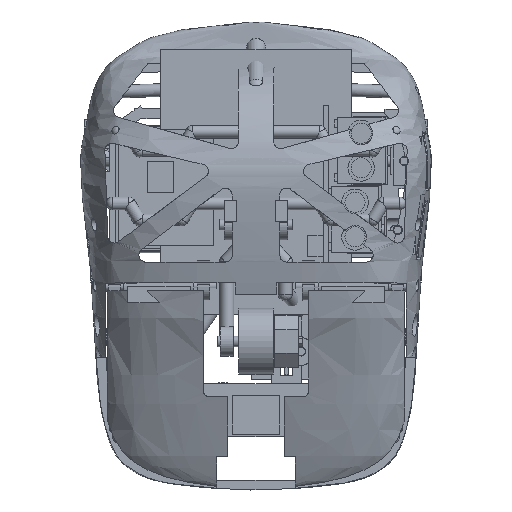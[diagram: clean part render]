
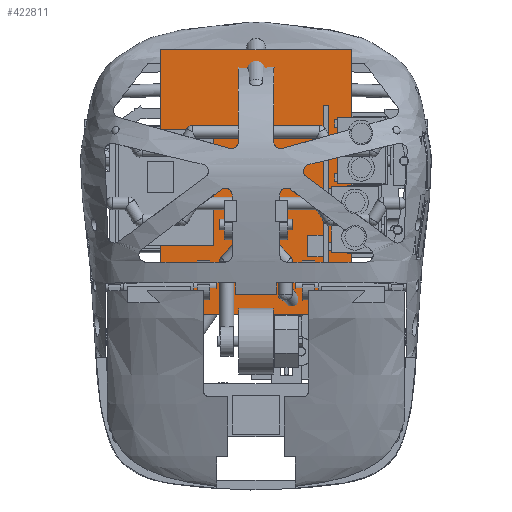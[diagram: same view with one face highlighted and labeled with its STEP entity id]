
A CAD part, top view. The second image highlights one B-rep face of the part: STEP entity #422811.
In plain terms, the highlighted planar face has unit normal (0, 0, 1).
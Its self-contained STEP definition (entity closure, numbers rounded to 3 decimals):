
#422497 = VERTEX_POINT('',#422498);
#422498 = CARTESIAN_POINT('',(-18.,33.,15.2));
#422505 = PLANE('',#422506);
#422506 = AXIS2_PLACEMENT_3D('',#422507,#422508,#422509);
#422507 = CARTESIAN_POINT('',(-18.,33.,14.));
#422508 = DIRECTION('',(1.,0.,0.));
#422509 = DIRECTION('',(0.,0.,1.));
#422517 = PLANE('',#422518);
#422518 = AXIS2_PLACEMENT_3D('',#422519,#422520,#422521);
#422519 = CARTESIAN_POINT('',(-18.,33.,14.));
#422520 = DIRECTION('',(0.,1.,0.));
#422521 = DIRECTION('',(0.,-0.,1.));
#422558 = VERTEX_POINT('',#422559);
#422559 = CARTESIAN_POINT('',(-18.,83.,15.2));
#422573 = PLANE('',#422574);
#422574 = AXIS2_PLACEMENT_3D('',#422575,#422576,#422577);
#422575 = CARTESIAN_POINT('',(-18.,83.,14.));
#422576 = DIRECTION('',(0.,1.,0.));
#422577 = DIRECTION('',(0.,-0.,1.));
#422585 = EDGE_CURVE('',#422497,#422558,#422586,.T.);
#422586 = SURFACE_CURVE('',#422587,(#422591,#422598),.PCURVE_S1.);
#422587 = LINE('',#422588,#422589);
#422588 = CARTESIAN_POINT('',(-18.,33.,15.2));
#422589 = VECTOR('',#422590,1.);
#422590 = DIRECTION('',(0.,1.,0.));
#422591 = PCURVE('',#422505,#422592);
#422592 = DEFINITIONAL_REPRESENTATION('',(#422593),#422597);
#422593 = LINE('',#422594,#422595);
#422594 = CARTESIAN_POINT('',(1.2,0.));
#422595 = VECTOR('',#422596,1.);
#422596 = DIRECTION('',(0.,-1.));
#422597 = ( GEOMETRIC_REPRESENTATION_CONTEXT(2) 
PARAMETRIC_REPRESENTATION_CONTEXT() REPRESENTATION_CONTEXT('2D SPACE',''
  ) );
#422598 = PCURVE('',#422599,#422604);
#422599 = PLANE('',#422600);
#422600 = AXIS2_PLACEMENT_3D('',#422601,#422602,#422603);
#422601 = CARTESIAN_POINT('',(-18.,33.,15.2));
#422602 = DIRECTION('',(0.,0.,1.));
#422603 = DIRECTION('',(1.,0.,-0.));
#422604 = DEFINITIONAL_REPRESENTATION('',(#422605),#422609);
#422605 = LINE('',#422606,#422607);
#422606 = CARTESIAN_POINT('',(0.,0.));
#422607 = VECTOR('',#422608,1.);
#422608 = DIRECTION('',(0.,1.));
#422609 = ( GEOMETRIC_REPRESENTATION_CONTEXT(2) 
PARAMETRIC_REPRESENTATION_CONTEXT() REPRESENTATION_CONTEXT('2D SPACE',''
  ) );
#422617 = VERTEX_POINT('',#422618);
#422618 = CARTESIAN_POINT('',(18.,33.,15.2));
#422625 = PLANE('',#422626);
#422626 = AXIS2_PLACEMENT_3D('',#422627,#422628,#422629);
#422627 = CARTESIAN_POINT('',(18.,33.,14.));
#422628 = DIRECTION('',(1.,0.,0.));
#422629 = DIRECTION('',(0.,0.,1.));
#422668 = VERTEX_POINT('',#422669);
#422669 = CARTESIAN_POINT('',(18.,83.,15.2));
#422690 = EDGE_CURVE('',#422617,#422668,#422691,.T.);
#422691 = SURFACE_CURVE('',#422692,(#422696,#422703),.PCURVE_S1.);
#422692 = LINE('',#422693,#422694);
#422693 = CARTESIAN_POINT('',(18.,33.,15.2));
#422694 = VECTOR('',#422695,1.);
#422695 = DIRECTION('',(0.,1.,0.));
#422696 = PCURVE('',#422625,#422697);
#422697 = DEFINITIONAL_REPRESENTATION('',(#422698),#422702);
#422698 = LINE('',#422699,#422700);
#422699 = CARTESIAN_POINT('',(1.2,0.));
#422700 = VECTOR('',#422701,1.);
#422701 = DIRECTION('',(0.,-1.));
#422702 = ( GEOMETRIC_REPRESENTATION_CONTEXT(2) 
PARAMETRIC_REPRESENTATION_CONTEXT() REPRESENTATION_CONTEXT('2D SPACE',''
  ) );
#422703 = PCURVE('',#422599,#422704);
#422704 = DEFINITIONAL_REPRESENTATION('',(#422705),#422709);
#422705 = LINE('',#422706,#422707);
#422706 = CARTESIAN_POINT('',(36.,0.));
#422707 = VECTOR('',#422708,1.);
#422708 = DIRECTION('',(0.,1.));
#422709 = ( GEOMETRIC_REPRESENTATION_CONTEXT(2) 
PARAMETRIC_REPRESENTATION_CONTEXT() REPRESENTATION_CONTEXT('2D SPACE',''
  ) );
#422736 = EDGE_CURVE('',#422497,#422617,#422737,.T.);
#422737 = SURFACE_CURVE('',#422738,(#422742,#422749),.PCURVE_S1.);
#422738 = LINE('',#422739,#422740);
#422739 = CARTESIAN_POINT('',(-18.,33.,15.2));
#422740 = VECTOR('',#422741,1.);
#422741 = DIRECTION('',(1.,0.,0.));
#422742 = PCURVE('',#422517,#422743);
#422743 = DEFINITIONAL_REPRESENTATION('',(#422744),#422748);
#422744 = LINE('',#422745,#422746);
#422745 = CARTESIAN_POINT('',(1.2,0.));
#422746 = VECTOR('',#422747,1.);
#422747 = DIRECTION('',(0.,1.));
#422748 = ( GEOMETRIC_REPRESENTATION_CONTEXT(2) 
PARAMETRIC_REPRESENTATION_CONTEXT() REPRESENTATION_CONTEXT('2D SPACE',''
  ) );
#422749 = PCURVE('',#422599,#422750);
#422750 = DEFINITIONAL_REPRESENTATION('',(#422751),#422755);
#422751 = LINE('',#422752,#422753);
#422752 = CARTESIAN_POINT('',(0.,0.));
#422753 = VECTOR('',#422754,1.);
#422754 = DIRECTION('',(1.,0.));
#422755 = ( GEOMETRIC_REPRESENTATION_CONTEXT(2) 
PARAMETRIC_REPRESENTATION_CONTEXT() REPRESENTATION_CONTEXT('2D SPACE',''
  ) );
#422783 = EDGE_CURVE('',#422558,#422668,#422784,.T.);
#422784 = SURFACE_CURVE('',#422785,(#422789,#422796),.PCURVE_S1.);
#422785 = LINE('',#422786,#422787);
#422786 = CARTESIAN_POINT('',(-18.,83.,15.2));
#422787 = VECTOR('',#422788,1.);
#422788 = DIRECTION('',(1.,0.,0.));
#422789 = PCURVE('',#422573,#422790);
#422790 = DEFINITIONAL_REPRESENTATION('',(#422791),#422795);
#422791 = LINE('',#422792,#422793);
#422792 = CARTESIAN_POINT('',(1.2,0.));
#422793 = VECTOR('',#422794,1.);
#422794 = DIRECTION('',(0.,1.));
#422795 = ( GEOMETRIC_REPRESENTATION_CONTEXT(2) 
PARAMETRIC_REPRESENTATION_CONTEXT() REPRESENTATION_CONTEXT('2D SPACE',''
  ) );
#422796 = PCURVE('',#422599,#422797);
#422797 = DEFINITIONAL_REPRESENTATION('',(#422798),#422802);
#422798 = LINE('',#422799,#422800);
#422799 = CARTESIAN_POINT('',(0.,50.));
#422800 = VECTOR('',#422801,1.);
#422801 = DIRECTION('',(1.,0.));
#422802 = ( GEOMETRIC_REPRESENTATION_CONTEXT(2) 
PARAMETRIC_REPRESENTATION_CONTEXT() REPRESENTATION_CONTEXT('2D SPACE',''
  ) );
#422811 = ADVANCED_FACE('',(#422812),#422599,.T.);
#422812 = FACE_BOUND('',#422813,.T.);
#422813 = EDGE_LOOP('',(#422814,#422815,#422816,#422817));
#422814 = ORIENTED_EDGE('',*,*,#422585,.F.);
#422815 = ORIENTED_EDGE('',*,*,#422736,.T.);
#422816 = ORIENTED_EDGE('',*,*,#422690,.T.);
#422817 = ORIENTED_EDGE('',*,*,#422783,.F.);
